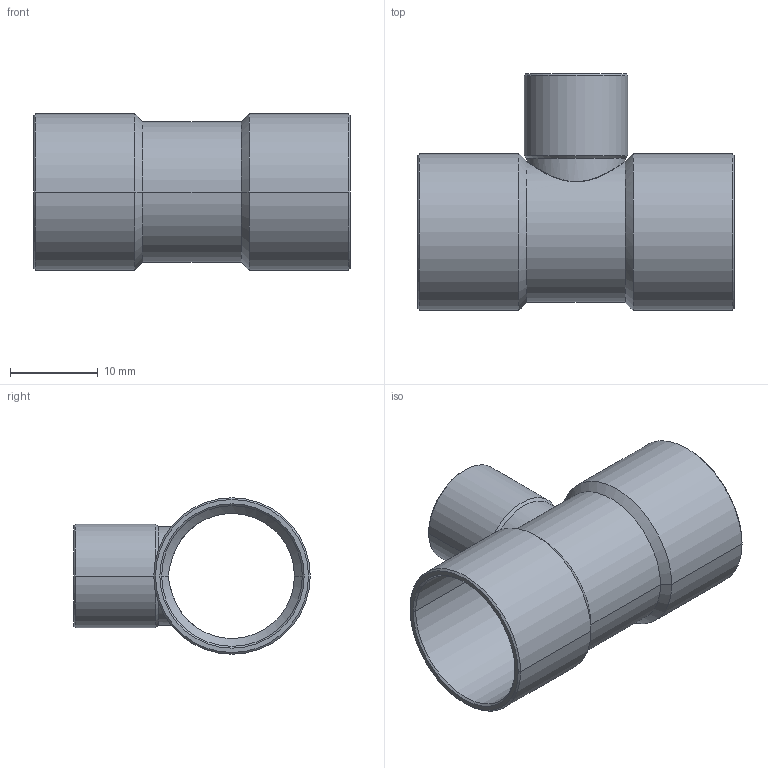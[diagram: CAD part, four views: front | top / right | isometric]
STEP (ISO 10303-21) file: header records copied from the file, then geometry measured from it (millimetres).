
FILE_DESCRIPTION((''),'2;1');
FILE_NAME('P:\Bouwmaten\z-maattekeningen 3D\5000\5130\5130161016.stp','2005-10-26T11:53:07',('Kris'),(''),'Autodesk Inventor 8','Autodesk Inventor 8','');
FILE_SCHEMA(('AUTOMOTIVE_DESIGN { 1 0 10303 214 1 1 1 1 }'));
Length unit declared in the file: millimetre
Products named in the file (1): 5130161016
Bounding box: 36 x 26.9 x 17.8 mm (x, y, z)
Volume: 1878.8 mm3; surface area: 4454.3 mm2
Topology: 1 solids, 1 shells, 49 faces, 112 edges, 64 vertices
Faces by surface type: cone 20, cylinder 16, bspline 10, plane 3
Entity records: 2032 total; most frequent: CARTESIAN_POINT 945, ORIENTED_EDGE 224, DIRECTION 220, EDGE_CURVE 112, AXIS2_PLACEMENT_3D 89, VERTEX_POINT 64, EDGE_LOOP 52, CIRCLE 49
